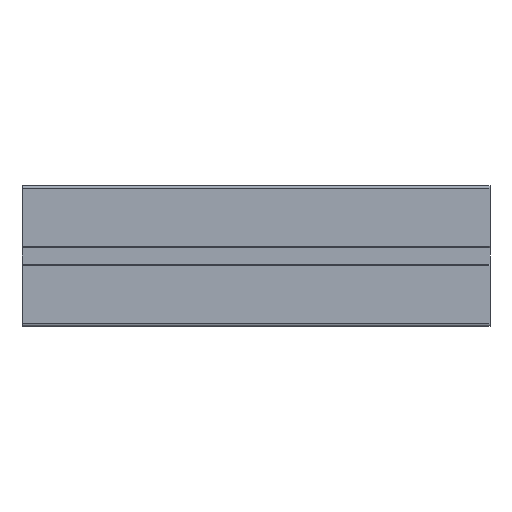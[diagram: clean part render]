
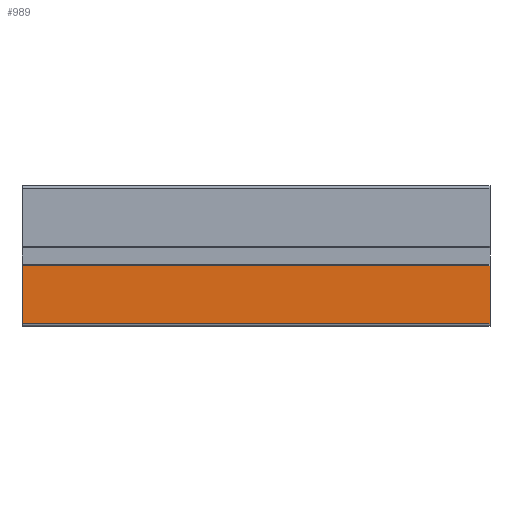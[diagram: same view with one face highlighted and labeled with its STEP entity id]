
A CAD part, front view. The second image highlights one B-rep face of the part: STEP entity #989.
In plain terms, the highlighted planar face has unit normal (0, -1, 0).
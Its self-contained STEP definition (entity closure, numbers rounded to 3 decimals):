
#48 = CARTESIAN_POINT ( 'NONE',  ( 0., -22.5, -4.15 ) ) ;
#279 = CARTESIAN_POINT ( 'NONE',  ( 200., -22.5, -4.15 ) ) ;
#302 = EDGE_LOOP ( 'NONE', ( #2199, #3414, #838, #2110 ) ) ;
#377 = VERTEX_POINT ( 'NONE', #1621 ) ;
#539 = DIRECTION ( 'NONE',  ( 1., 0., 0. ) ) ;
#609 = VECTOR ( 'NONE', #2812, 1000. ) ;
#622 = CARTESIAN_POINT ( 'NONE',  ( 0., -22.5, -29. ) ) ;
#838 = ORIENTED_EDGE ( 'NONE', *, *, #3169, .F. ) ;
#886 = CARTESIAN_POINT ( 'NONE',  ( 200., -22.5, -30. ) ) ;
#989 = ADVANCED_FACE ( 'NONE', ( #3458 ), #2644, .F. ) ;
#1198 = VECTOR ( 'NONE', #2974, 1000. ) ;
#1384 = LINE ( 'NONE', #279, #1729 ) ;
#1388 = LINE ( 'NONE', #2758, #609 ) ;
#1399 = CARTESIAN_POINT ( 'NONE',  ( 200., -22.5, -4.15 ) ) ;
#1621 = CARTESIAN_POINT ( 'NONE',  ( 200., -22.5, -29. ) ) ;
#1632 = EDGE_CURVE ( 'NONE', #2917, #2944, #2958, .T. ) ;
#1729 = VECTOR ( 'NONE', #539, 1000. ) ;
#1817 = EDGE_CURVE ( 'NONE', #2944, #2167, #1384, .T. ) ;
#1898 = CARTESIAN_POINT ( 'NONE',  ( 0., -22.5, 0. ) ) ;
#2009 = DIRECTION ( 'NONE',  ( 0., 1., 0. ) ) ;
#2110 = ORIENTED_EDGE ( 'NONE', *, *, #1817, .F. ) ;
#2167 = VERTEX_POINT ( 'NONE', #1399 ) ;
#2199 = ORIENTED_EDGE ( 'NONE', *, *, #1632, .F. ) ;
#2398 = LINE ( 'NONE', #3520, #3302 ) ;
#2552 = AXIS2_PLACEMENT_3D ( 'NONE', #886, #2009, #3438 ) ;
#2644 = PLANE ( 'NONE',  #2552 ) ;
#2651 = DIRECTION ( 'NONE',  ( 1., 0., 0. ) ) ;
#2758 = CARTESIAN_POINT ( 'NONE',  ( 200., -22.5, 0. ) ) ;
#2812 = DIRECTION ( 'NONE',  ( 0., 0., -1. ) ) ;
#2917 = VERTEX_POINT ( 'NONE', #622 ) ;
#2944 = VERTEX_POINT ( 'NONE', #48 ) ;
#2958 = LINE ( 'NONE', #1898, #1198 ) ;
#2974 = DIRECTION ( 'NONE',  ( 0., 0., 1. ) ) ;
#3114 = EDGE_CURVE ( 'NONE', #2917, #377, #2398, .T. ) ;
#3169 = EDGE_CURVE ( 'NONE', #2167, #377, #1388, .T. ) ;
#3302 = VECTOR ( 'NONE', #2651, 1000. ) ;
#3414 = ORIENTED_EDGE ( 'NONE', *, *, #3114, .T. ) ;
#3438 = DIRECTION ( 'NONE',  ( 0., 0., 1. ) ) ;
#3458 = FACE_OUTER_BOUND ( 'NONE', #302, .T. ) ;
#3520 = CARTESIAN_POINT ( 'NONE',  ( 200., -22.5, -29. ) ) ;
